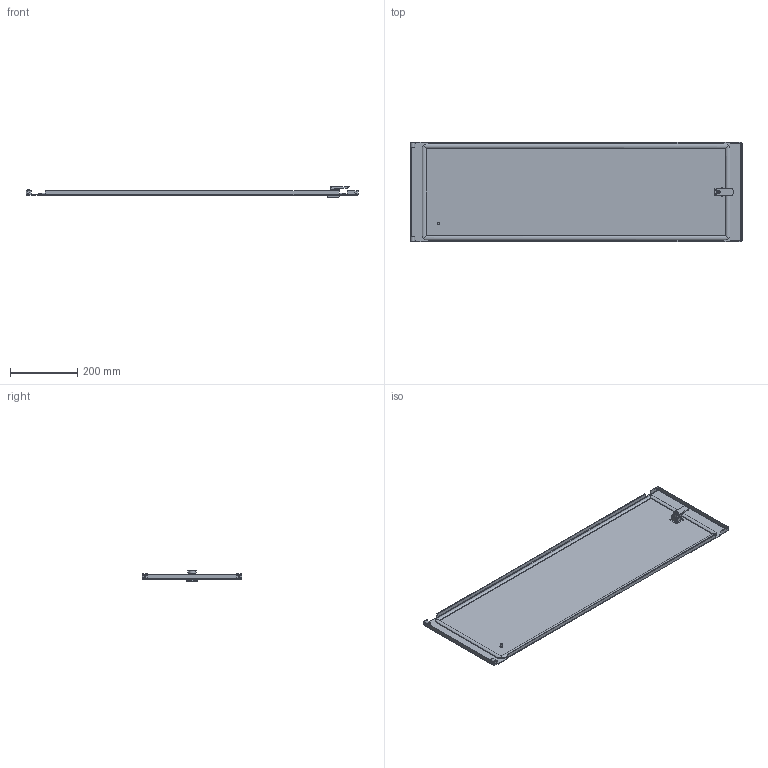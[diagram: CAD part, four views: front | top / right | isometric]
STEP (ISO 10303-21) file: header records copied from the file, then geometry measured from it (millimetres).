
FILE_DESCRIPTION(('STEP AP203'), '1');
FILE_NAME('Äâåðü ñåêöèîííàÿ 300õ1000 ìì OptiBox M 419363 ÊÝÀÇ', '', ('UNSPECIFIED'), ('UNSPECIFIED'), 'C3D Converter', 'C3D Toolkit', '');
FILE_SCHEMA(('CONFIG_CONTROL_DESIGN'));
Length unit declared in the file: millimetre
Bounding box: 986.4 x 297 x 32.2 mm (x, y, z)
Volume: 763759.1 mm3; surface area: 724650.8 mm2
Topology: 6 solids, 6 shells, 355 faces, 928 edges, 588 vertices
Faces by surface type: plane 252, cylinder 92, bspline 8, cone 2, torus 1
Full cylindrical faces by diameter (mm): 0.75 x1, 1 x1, 3 x1, 5 x2, 6 x1, 7.5 x1, 9.3 x1, 10 x1, 20 x1
Entity records: 11864 total; most frequent: CARTESIAN_POINT 3095, ORIENTED_EDGE 1830, DIRECTION 1731, EDGE_CURVE 915, LINE 705, VECTOR 705, VERTEX_POINT 588, AXIS2_PLACEMENT_3D 513
